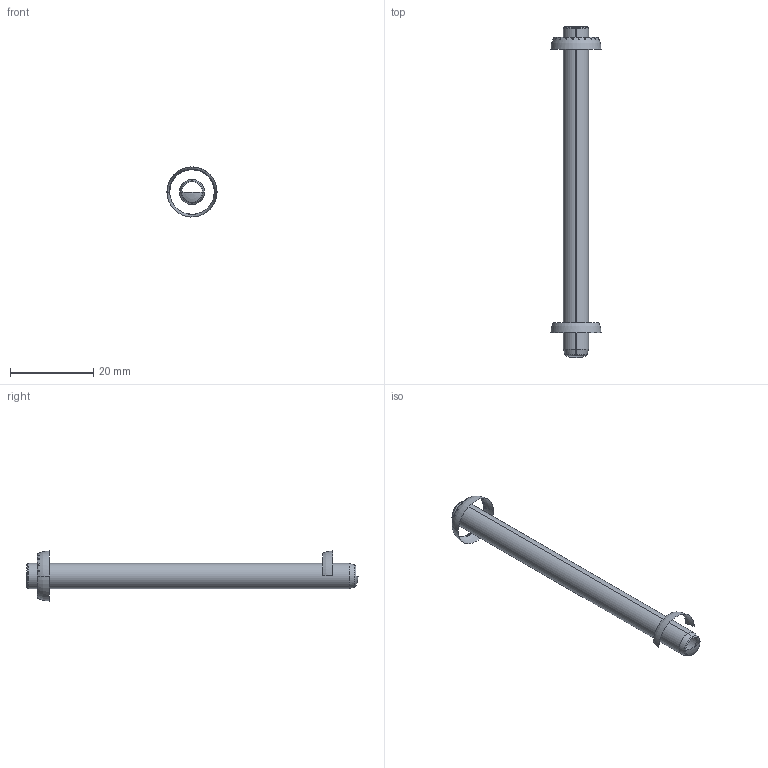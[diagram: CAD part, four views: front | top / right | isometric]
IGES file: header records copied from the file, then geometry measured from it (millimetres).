
Start section: SolidWorks IGES file using analytic representation for surfaces
Global section: file name: D:\Cleonir_arquivos\MT_15_07\Pinos Guia DIN 6325 ISO 8734 sem rosca\PG606080.igs; native system: SolidWorks 2013; preprocessor: SolidWorks 2013; author: Cleonir; date: 130718.161756; units: millimetre
Bounding box: 12 x 79.55 x 11.99 mm (x, y, z)
Surface area: 1653.4 mm2 (no closed solid volume)
Topology: 0 solids, 0 shells, 298 faces, 2136 edges, 2135 vertices
Faces by surface type: bspline 268, revolution 30
